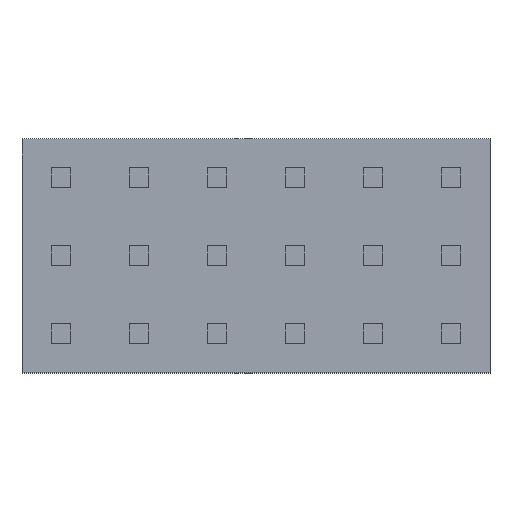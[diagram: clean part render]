
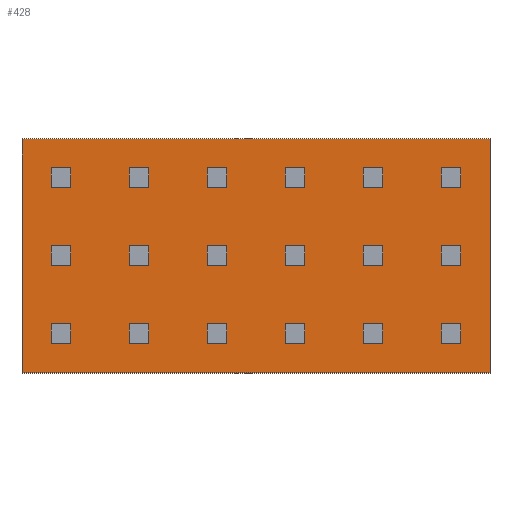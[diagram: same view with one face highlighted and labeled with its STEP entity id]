
A CAD part, top view. The second image highlights one B-rep face of the part: STEP entity #428.
In plain terms, the highlighted planar face has unit normal (0, 0, 1).
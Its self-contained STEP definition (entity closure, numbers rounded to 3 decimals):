
#114 = VERTEX_POINT('',#115);
#115 = CARTESIAN_POINT('',(-7.62,-3.81,1.27));
#122 = PLANE('',#123);
#123 = AXIS2_PLACEMENT_3D('',#124,#125,#126);
#124 = CARTESIAN_POINT('',(-7.62,-3.81,-1.27));
#125 = DIRECTION('',(1.,0.,-0.));
#126 = DIRECTION('',(0.,0.,1.));
#134 = PLANE('',#135);
#135 = AXIS2_PLACEMENT_3D('',#136,#137,#138);
#136 = CARTESIAN_POINT('',(-7.62,-3.81,-1.27));
#137 = DIRECTION('',(-0.,1.,0.));
#138 = DIRECTION('',(0.,0.,1.));
#175 = VERTEX_POINT('',#176);
#176 = CARTESIAN_POINT('',(-7.62,3.81,1.27));
#190 = PLANE('',#191);
#191 = AXIS2_PLACEMENT_3D('',#192,#193,#194);
#192 = CARTESIAN_POINT('',(-7.62,3.81,-1.27));
#193 = DIRECTION('',(-0.,1.,0.));
#194 = DIRECTION('',(0.,0.,1.));
#202 = EDGE_CURVE('',#114,#175,#203,.T.);
#203 = SURFACE_CURVE('',#204,(#208,#215),.PCURVE_S1.);
#204 = LINE('',#205,#206);
#205 = CARTESIAN_POINT('',(-7.62,-3.81,1.27));
#206 = VECTOR('',#207,1.);
#207 = DIRECTION('',(-0.,1.,0.));
#208 = PCURVE('',#122,#209);
#209 = DEFINITIONAL_REPRESENTATION('',(#210),#214);
#210 = LINE('',#211,#212);
#211 = CARTESIAN_POINT('',(2.54,0.));
#212 = VECTOR('',#213,1.);
#213 = DIRECTION('',(0.,-1.));
#214 = ( GEOMETRIC_REPRESENTATION_CONTEXT(2) 
PARAMETRIC_REPRESENTATION_CONTEXT() REPRESENTATION_CONTEXT('2D SPACE',''
  ) );
#215 = PCURVE('',#216,#221);
#216 = PLANE('',#217);
#217 = AXIS2_PLACEMENT_3D('',#218,#219,#220);
#218 = CARTESIAN_POINT('',(-7.62,-3.81,1.27));
#219 = DIRECTION('',(0.,0.,1.));
#220 = DIRECTION('',(1.,0.,-0.));
#221 = DEFINITIONAL_REPRESENTATION('',(#222),#226);
#222 = LINE('',#223,#224);
#223 = CARTESIAN_POINT('',(0.,0.));
#224 = VECTOR('',#225,1.);
#225 = DIRECTION('',(0.,1.));
#226 = ( GEOMETRIC_REPRESENTATION_CONTEXT(2) 
PARAMETRIC_REPRESENTATION_CONTEXT() REPRESENTATION_CONTEXT('2D SPACE',''
  ) );
#234 = VERTEX_POINT('',#235);
#235 = CARTESIAN_POINT('',(7.62,-3.81,1.27));
#242 = PLANE('',#243);
#243 = AXIS2_PLACEMENT_3D('',#244,#245,#246);
#244 = CARTESIAN_POINT('',(7.62,-3.81,-1.27));
#245 = DIRECTION('',(1.,0.,-0.));
#246 = DIRECTION('',(0.,0.,1.));
#285 = VERTEX_POINT('',#286);
#286 = CARTESIAN_POINT('',(7.62,3.81,1.27));
#307 = EDGE_CURVE('',#234,#285,#308,.T.);
#308 = SURFACE_CURVE('',#309,(#313,#320),.PCURVE_S1.);
#309 = LINE('',#310,#311);
#310 = CARTESIAN_POINT('',(7.62,-3.81,1.27));
#311 = VECTOR('',#312,1.);
#312 = DIRECTION('',(-0.,1.,0.));
#313 = PCURVE('',#242,#314);
#314 = DEFINITIONAL_REPRESENTATION('',(#315),#319);
#315 = LINE('',#316,#317);
#316 = CARTESIAN_POINT('',(2.54,0.));
#317 = VECTOR('',#318,1.);
#318 = DIRECTION('',(0.,-1.));
#319 = ( GEOMETRIC_REPRESENTATION_CONTEXT(2) 
PARAMETRIC_REPRESENTATION_CONTEXT() REPRESENTATION_CONTEXT('2D SPACE',''
  ) );
#320 = PCURVE('',#216,#321);
#321 = DEFINITIONAL_REPRESENTATION('',(#322),#326);
#322 = LINE('',#323,#324);
#323 = CARTESIAN_POINT('',(15.24,0.));
#324 = VECTOR('',#325,1.);
#325 = DIRECTION('',(0.,1.));
#326 = ( GEOMETRIC_REPRESENTATION_CONTEXT(2) 
PARAMETRIC_REPRESENTATION_CONTEXT() REPRESENTATION_CONTEXT('2D SPACE',''
  ) );
#353 = EDGE_CURVE('',#114,#234,#354,.T.);
#354 = SURFACE_CURVE('',#355,(#359,#366),.PCURVE_S1.);
#355 = LINE('',#356,#357);
#356 = CARTESIAN_POINT('',(-7.62,-3.81,1.27));
#357 = VECTOR('',#358,1.);
#358 = DIRECTION('',(1.,0.,-0.));
#359 = PCURVE('',#134,#360);
#360 = DEFINITIONAL_REPRESENTATION('',(#361),#365);
#361 = LINE('',#362,#363);
#362 = CARTESIAN_POINT('',(2.54,0.));
#363 = VECTOR('',#364,1.);
#364 = DIRECTION('',(0.,1.));
#365 = ( GEOMETRIC_REPRESENTATION_CONTEXT(2) 
PARAMETRIC_REPRESENTATION_CONTEXT() REPRESENTATION_CONTEXT('2D SPACE',''
  ) );
#366 = PCURVE('',#216,#367);
#367 = DEFINITIONAL_REPRESENTATION('',(#368),#372);
#368 = LINE('',#369,#370);
#369 = CARTESIAN_POINT('',(0.,0.));
#370 = VECTOR('',#371,1.);
#371 = DIRECTION('',(1.,0.));
#372 = ( GEOMETRIC_REPRESENTATION_CONTEXT(2) 
PARAMETRIC_REPRESENTATION_CONTEXT() REPRESENTATION_CONTEXT('2D SPACE',''
  ) );
#400 = EDGE_CURVE('',#175,#285,#401,.T.);
#401 = SURFACE_CURVE('',#402,(#406,#413),.PCURVE_S1.);
#402 = LINE('',#403,#404);
#403 = CARTESIAN_POINT('',(-7.62,3.81,1.27));
#404 = VECTOR('',#405,1.);
#405 = DIRECTION('',(1.,0.,-0.));
#406 = PCURVE('',#190,#407);
#407 = DEFINITIONAL_REPRESENTATION('',(#408),#412);
#408 = LINE('',#409,#410);
#409 = CARTESIAN_POINT('',(2.54,0.));
#410 = VECTOR('',#411,1.);
#411 = DIRECTION('',(0.,1.));
#412 = ( GEOMETRIC_REPRESENTATION_CONTEXT(2) 
PARAMETRIC_REPRESENTATION_CONTEXT() REPRESENTATION_CONTEXT('2D SPACE',''
  ) );
#413 = PCURVE('',#216,#414);
#414 = DEFINITIONAL_REPRESENTATION('',(#415),#419);
#415 = LINE('',#416,#417);
#416 = CARTESIAN_POINT('',(0.,7.62));
#417 = VECTOR('',#418,1.);
#418 = DIRECTION('',(1.,0.));
#419 = ( GEOMETRIC_REPRESENTATION_CONTEXT(2) 
PARAMETRIC_REPRESENTATION_CONTEXT() REPRESENTATION_CONTEXT('2D SPACE',''
  ) );
#428 = ADVANCED_FACE('',(#429),#216,.T.);
#429 = FACE_BOUND('',#430,.T.);
#430 = EDGE_LOOP('',(#431,#432,#433,#434));
#431 = ORIENTED_EDGE('',*,*,#202,.F.);
#432 = ORIENTED_EDGE('',*,*,#353,.T.);
#433 = ORIENTED_EDGE('',*,*,#307,.T.);
#434 = ORIENTED_EDGE('',*,*,#400,.F.);
